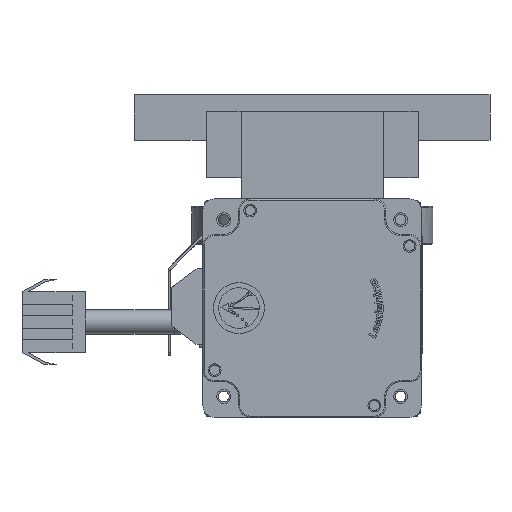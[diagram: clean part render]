
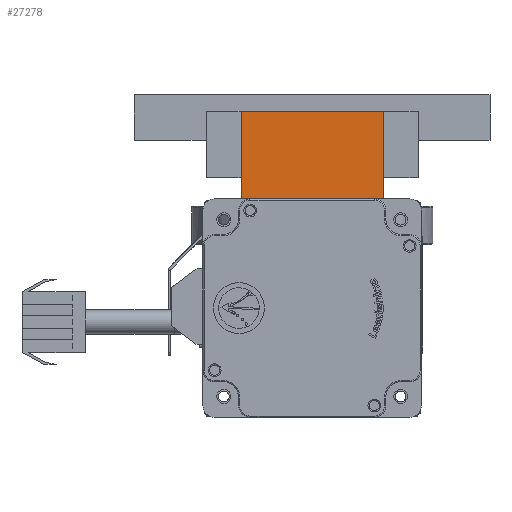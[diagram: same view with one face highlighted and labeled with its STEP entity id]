
A CAD part, left-side view. The second image highlights one B-rep face of the part: STEP entity #27278.
In plain terms, the highlighted planar face has unit normal (-1, 0, 0).
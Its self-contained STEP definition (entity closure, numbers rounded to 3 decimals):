
#531 = ORIENTED_EDGE ( 'NONE', *, *, #40833, .T. ) ;
#691 = CARTESIAN_POINT ( 'NONE',  ( 126.5, 28., 77.5 ) ) ;
#873 = CARTESIAN_POINT ( 'NONE',  ( 126.5, -28., 77.5 ) ) ;
#1090 = ORIENTED_EDGE ( 'NONE', *, *, #59510, .T. ) ;
#1755 = VERTEX_POINT ( 'NONE', #23863 ) ;
#3541 = DIRECTION ( 'NONE',  ( 0., -1., 0. ) ) ;
#4021 = VECTOR ( 'NONE', #11479, 1000. ) ;
#4899 = LINE ( 'NONE', #873, #30168 ) ;
#6306 = VERTEX_POINT ( 'NONE', #35400 ) ;
#6528 = LINE ( 'NONE', #691, #47627 ) ;
#6618 = LINE ( 'NONE', #14315, #12151 ) ;
#8742 = DIRECTION ( 'NONE',  ( 0., -1., 0. ) ) ;
#11479 = DIRECTION ( 'NONE',  ( 0., -1., 0. ) ) ;
#12151 = VECTOR ( 'NONE', #3541, 1000. ) ;
#12650 = CARTESIAN_POINT ( 'NONE',  ( 126.5, -28., 77.5 ) ) ;
#14315 = CARTESIAN_POINT ( 'NONE',  ( 126.5, -28., 40. ) ) ;
#17632 = EDGE_CURVE ( 'NONE', #1755, #24092, #49975, .T. ) ;
#17870 = EDGE_LOOP ( 'NONE', ( #1090, #58732, #51067, #31280, #58001, #531 ) ) ;
#20313 = DIRECTION ( 'NONE',  ( 0., 0., -1. ) ) ;
#22070 = CARTESIAN_POINT ( 'NONE',  ( 126.5, -28., 40. ) ) ;
#22217 = VERTEX_POINT ( 'NONE', #31209 ) ;
#23000 = DIRECTION ( 'NONE',  ( 0., -1., 0. ) ) ;
#23863 = CARTESIAN_POINT ( 'NONE',  ( 126.5, 18.725, 40. ) ) ;
#24092 = VERTEX_POINT ( 'NONE', #45951 ) ;
#26306 = DIRECTION ( 'NONE',  ( 0., 0., -1. ) ) ;
#27278 = ADVANCED_FACE ( 'NONE', ( #57867 ), #36947, .F. ) ;
#28380 = VERTEX_POINT ( 'NONE', #63572 ) ;
#30168 = VECTOR ( 'NONE', #26306, 1000. ) ;
#31209 = CARTESIAN_POINT ( 'NONE',  ( 126.5, 28., 40. ) ) ;
#31280 = ORIENTED_EDGE ( 'NONE', *, *, #64105, .F. ) ;
#32332 = AXIS2_PLACEMENT_3D ( 'NONE', #51785, #42249, #46695 ) ;
#35400 = CARTESIAN_POINT ( 'NONE',  ( 126.5, 28., 77.5 ) ) ;
#36947 = PLANE ( 'NONE',  #32332 ) ;
#39021 = CARTESIAN_POINT ( 'NONE',  ( 126.5, -28., 77.5 ) ) ;
#40833 = EDGE_CURVE ( 'NONE', #6306, #22217, #6528, .T. ) ;
#42249 = DIRECTION ( 'NONE',  ( 1., 0., 0. ) ) ;
#45951 = CARTESIAN_POINT ( 'NONE',  ( 126.5, -18.725, 40. ) ) ;
#46695 = DIRECTION ( 'NONE',  ( 0., 0., -1. ) ) ;
#47627 = VECTOR ( 'NONE', #20313, 1000. ) ;
#49975 = LINE ( 'NONE', #53002, #64188 ) ;
#51063 = VECTOR ( 'NONE', #8742, 1000. ) ;
#51067 = ORIENTED_EDGE ( 'NONE', *, *, #57544, .T. ) ;
#51785 = CARTESIAN_POINT ( 'NONE',  ( 126.5, -28., 77.5 ) ) ;
#53002 = CARTESIAN_POINT ( 'NONE',  ( 126.5, -28., 40. ) ) ;
#54196 = LINE ( 'NONE', #39021, #51063 ) ;
#57544 = EDGE_CURVE ( 'NONE', #24092, #28380, #62550, .T. ) ;
#57867 = FACE_OUTER_BOUND ( 'NONE', #17870, .T. ) ;
#58001 = ORIENTED_EDGE ( 'NONE', *, *, #62786, .F. ) ;
#58732 = ORIENTED_EDGE ( 'NONE', *, *, #17632, .T. ) ;
#59510 = EDGE_CURVE ( 'NONE', #22217, #1755, #6618, .T. ) ;
#62550 = LINE ( 'NONE', #22070, #4021 ) ;
#62786 = EDGE_CURVE ( 'NONE', #6306, #63170, #54196, .T. ) ;
#63170 = VERTEX_POINT ( 'NONE', #12650 ) ;
#63572 = CARTESIAN_POINT ( 'NONE',  ( 126.5, -28., 40. ) ) ;
#64105 = EDGE_CURVE ( 'NONE', #63170, #28380, #4899, .T. ) ;
#64188 = VECTOR ( 'NONE', #23000, 1000. ) ;
